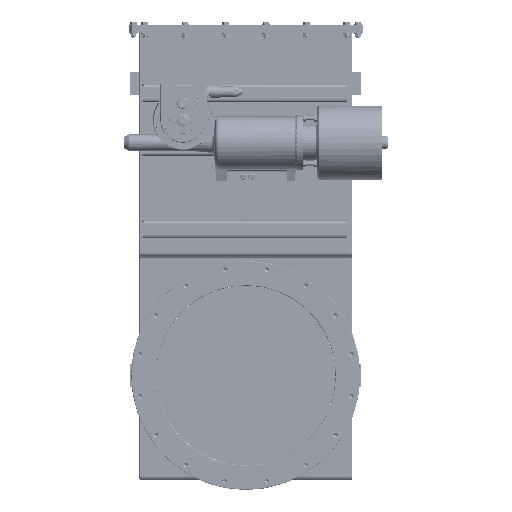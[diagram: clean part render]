
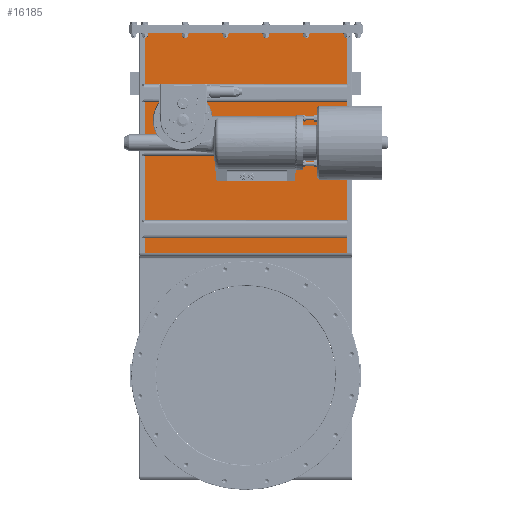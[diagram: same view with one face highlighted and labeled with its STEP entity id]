
A CAD part, top view. The second image highlights one B-rep face of the part: STEP entity #16185.
In plain terms, the highlighted planar face has unit normal (0, 0, 1).
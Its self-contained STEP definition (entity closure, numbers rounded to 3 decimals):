
#9216=LINE('',#66874,#11144);
#9218=LINE('',#66880,#11146);
#9219=LINE('',#66882,#11147);
#9220=LINE('',#66884,#11148);
#9221=LINE('',#66886,#11149);
#9222=LINE('',#66888,#11150);
#11144=VECTOR('',#51943,1.);
#11146=VECTOR('',#51949,1.);
#11147=VECTOR('',#51950,1.);
#11148=VECTOR('',#51951,1.);
#11149=VECTOR('',#51952,1.);
#11150=VECTOR('',#51953,1.);
#13026=PLANE('',#42634);
#16185=ADVANCED_FACE('',(#18800,#18801),#13026,.F.);
#18800=FACE_BOUND('',#21960,.T.);
#18801=FACE_BOUND('',#21961,.T.);
#21960=EDGE_LOOP('',(#29956));
#21961=EDGE_LOOP('',(#29957,#29958,#29959,#29960,#29961,#29962));
#29956=ORIENTED_EDGE('',*,*,#37208,.T.);
#29957=ORIENTED_EDGE('',*,*,#37206,.T.);
#29958=ORIENTED_EDGE('',*,*,#37209,.T.);
#29959=ORIENTED_EDGE('',*,*,#37210,.T.);
#29960=ORIENTED_EDGE('',*,*,#37211,.F.);
#29961=ORIENTED_EDGE('',*,*,#37212,.F.);
#29962=ORIENTED_EDGE('',*,*,#37213,.T.);
#33143=VERTEX_POINT('',#66873);
#33144=VERTEX_POINT('',#66875);
#33145=VERTEX_POINT('',#66879);
#33146=VERTEX_POINT('',#66881);
#33147=VERTEX_POINT('',#66883);
#33148=VERTEX_POINT('',#66885);
#33149=VERTEX_POINT('',#66887);
#37206=EDGE_CURVE('',#33144,#33143,#9216,.T.);
#37208=EDGE_CURVE('',#33145,#33145,#38994,.T.);
#37209=EDGE_CURVE('',#33143,#33146,#9218,.T.);
#37210=EDGE_CURVE('',#33146,#33147,#9219,.T.);
#37211=EDGE_CURVE('',#33148,#33147,#9220,.T.);
#37212=EDGE_CURVE('',#33149,#33148,#9221,.T.);
#37213=EDGE_CURVE('',#33149,#33144,#9222,.T.);
#38994=CIRCLE('',#42633,27.55);
#42633=AXIS2_PLACEMENT_3D('',#66878,#51947,#51948);
#42634=AXIS2_PLACEMENT_3D('',#66889,#51954,#51955);
#51943=DIRECTION('',(0.,1.,0.));
#51947=DIRECTION('',(0.,0.,-1.));
#51948=DIRECTION('',(-1.,0.,0.));
#51949=DIRECTION('',(-0.707,0.707,0.));
#51950=DIRECTION('',(-1.,0.,0.));
#51951=DIRECTION('',(0.,1.,0.));
#51952=DIRECTION('',(-1.,0.,0.));
#51953=DIRECTION('',(0.707,0.707,0.));
#51954=DIRECTION('',(0.,0.,-1.));
#51955=DIRECTION('',(1.,0.,0.));
#66873=CARTESIAN_POINT('',(-10.,223.75,47.));
#66874=CARTESIAN_POINT('',(-10.,-225.75,47.));
#66875=CARTESIAN_POINT('',(-10.,-223.75,47.));
#66878=CARTESIAN_POINT('',(-204.,140.,47.));
#66879=CARTESIAN_POINT('',(-231.55,140.,47.));
#66880=CARTESIAN_POINT('',(-10.,223.75,47.));
#66881=CARTESIAN_POINT('',(-12.,225.75,47.));
#66882=CARTESIAN_POINT('',(-10.,225.75,47.));
#66883=CARTESIAN_POINT('',(-499.,225.75,47.));
#66884=CARTESIAN_POINT('',(-499.,-225.75,47.));
#66885=CARTESIAN_POINT('',(-499.,-225.75,47.));
#66886=CARTESIAN_POINT('',(-10.,-225.75,47.));
#66887=CARTESIAN_POINT('',(-12.,-225.75,47.));
#66888=CARTESIAN_POINT('',(-12.,-225.75,47.));
#66889=CARTESIAN_POINT('',(-10.,-225.75,47.));
